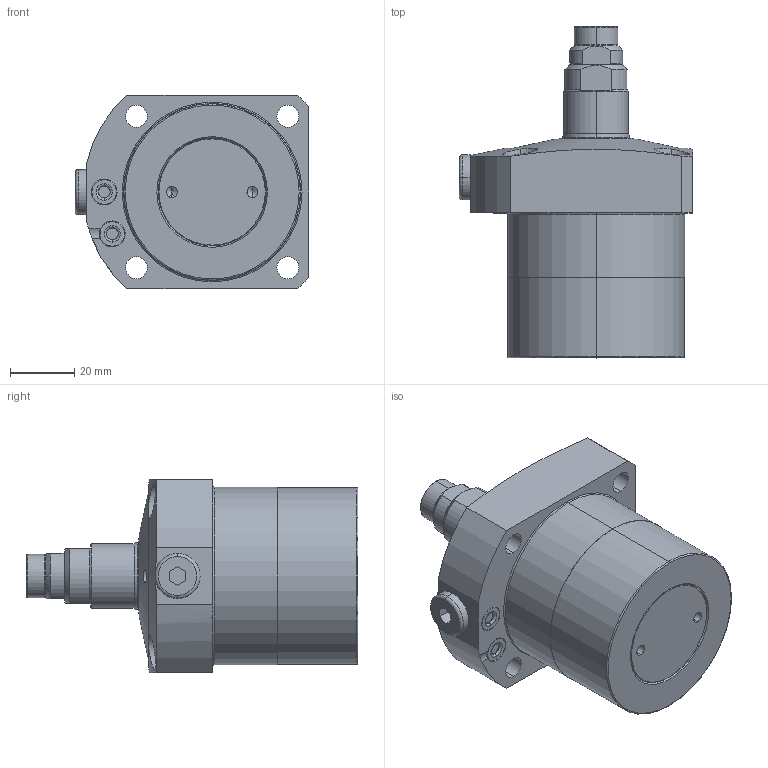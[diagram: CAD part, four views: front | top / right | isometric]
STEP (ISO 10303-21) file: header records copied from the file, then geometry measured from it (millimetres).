
FILE_DESCRIPTION(/* description */ (''),/* implementation_level */ '2;1');
FILE_NAME(/* name */ 'KFSS55-M.stp',/* time_stamp */ '2026-02-06T10:27:15+08:00',/* author */ (''),/* organization */ (''),/* preprocessor_version */ 'ST-DEVELOPER v16.7',/* originating_system */ 'SIEMENS PLM Software NX 12.0',/* authorisation */ '');
FILE_SCHEMA (('AUTOMOTIVE_DESIGN { 1 0 10303 214 3 1 1 1 }'));
Length unit declared in the file: millimetre
Products named in the file (10): XLC-M12SP_contactbolt8137; XLC-M12SP_pin8257; XLC-M12_o-ring2280; XLC-M12SP_pad8240; KFSS55-M-4; KFSS55-M-5-P5; KFSS55-M-2; KFSS55-M-1; KFSS55-M-3; LC0553-CxM-E_step
Assembly tree (10 placements, depth 3):
  LC0553-CxM-E_step
    KFSS55-M-1
    KFSS55-M-2
    KFSS55-M-5-P5  x2
    KFSS55-M-4
    KFSS55-M-3
      XLC-M12SP_pad8240
      XLC-M12_o-ring2280
      XLC-M12SP_pin8257
      XLC-M12SP_contactbolt8137
Bounding box: 72.5 x 103 x 60 mm (x, y, z)
Volume: 187136.3 mm3; surface area: 29032.2 mm2
Topology: 9 solids, 9 shells, 280 faces, 636 edges, 385 vertices
Faces by surface type: cylinder 97, torus 63, plane 59, cone 55, sphere 6
Entity records: 8418 total; most frequent: CARTESIAN_POINT 1903, DIRECTION 1445, ORIENTED_EDGE 1208, AXIS2_PLACEMENT_3D 626, EDGE_CURVE 604, VERTEX_POINT 371, CIRCLE 347, EDGE_LOOP 307
